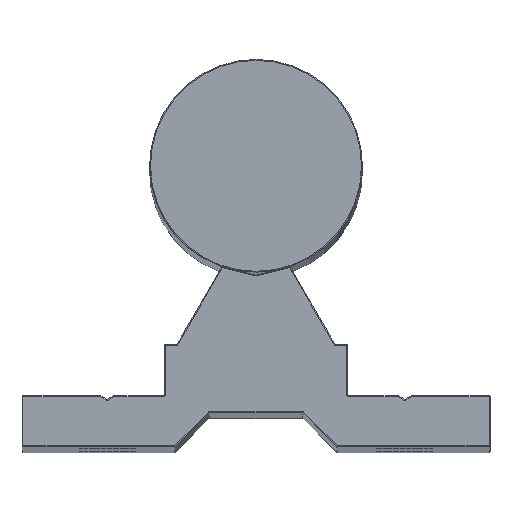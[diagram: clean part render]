
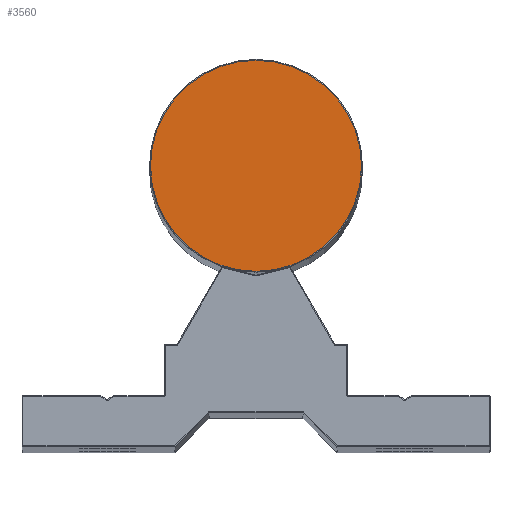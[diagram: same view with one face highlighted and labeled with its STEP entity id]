
A CAD part, top view. The second image highlights one B-rep face of the part: STEP entity #3560.
In plain terms, the highlighted planar face has unit normal (0, 0, 1).
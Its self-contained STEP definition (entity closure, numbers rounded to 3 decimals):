
#183 = EDGE_CURVE ( 'NONE', #5418, #6300, #7037, .T. ) ;
#638 = EDGE_LOOP ( 'NONE', ( #2904, #812 ) ) ;
#812 = ORIENTED_EDGE ( 'NONE', *, *, #6561, .T. ) ;
#1061 = PLANE ( 'NONE',  #4920 ) ;
#1089 = DIRECTION ( 'NONE',  ( 1., 0., 0. ) ) ;
#1215 = CARTESIAN_POINT ( 'NONE',  ( 0., 33., 0. ) ) ;
#1266 = CARTESIAN_POINT ( 'NONE',  ( 0., 33., 0. ) ) ;
#1516 = CARTESIAN_POINT ( 'NONE',  ( 12.4, 33., 0. ) ) ;
#1925 = DIRECTION ( 'NONE',  ( 0., 0., 1. ) ) ;
#2604 = CARTESIAN_POINT ( 'NONE',  ( -12.4, 33., 0. ) ) ;
#2689 = CIRCLE ( 'NONE', #6915, 12.4 ) ;
#2818 = DIRECTION ( 'NONE',  ( 0., 0., 1. ) ) ;
#2888 = DIRECTION ( 'NONE',  ( 0., 0., 1. ) ) ;
#2904 = ORIENTED_EDGE ( 'NONE', *, *, #183, .T. ) ;
#3560 = ADVANCED_FACE ( 'NONE', ( #4625 ), #1061, .T. ) ;
#4129 = DIRECTION ( 'NONE',  ( 1., 0., 0. ) ) ;
#4625 = FACE_OUTER_BOUND ( 'NONE', #638, .T. ) ;
#4780 = AXIS2_PLACEMENT_3D ( 'NONE', #6414, #2888, #1089 ) ;
#4920 = AXIS2_PLACEMENT_3D ( 'NONE', #1215, #2818, #7608 ) ;
#5418 = VERTEX_POINT ( 'NONE', #1516 ) ;
#6300 = VERTEX_POINT ( 'NONE', #2604 ) ;
#6414 = CARTESIAN_POINT ( 'NONE',  ( 0., 33., 0. ) ) ;
#6561 = EDGE_CURVE ( 'NONE', #6300, #5418, #2689, .T. ) ;
#6915 = AXIS2_PLACEMENT_3D ( 'NONE', #1266, #1925, #4129 ) ;
#7037 = CIRCLE ( 'NONE', #4780, 12.4 ) ;
#7608 = DIRECTION ( 'NONE',  ( 1., 0., 0. ) ) ;
